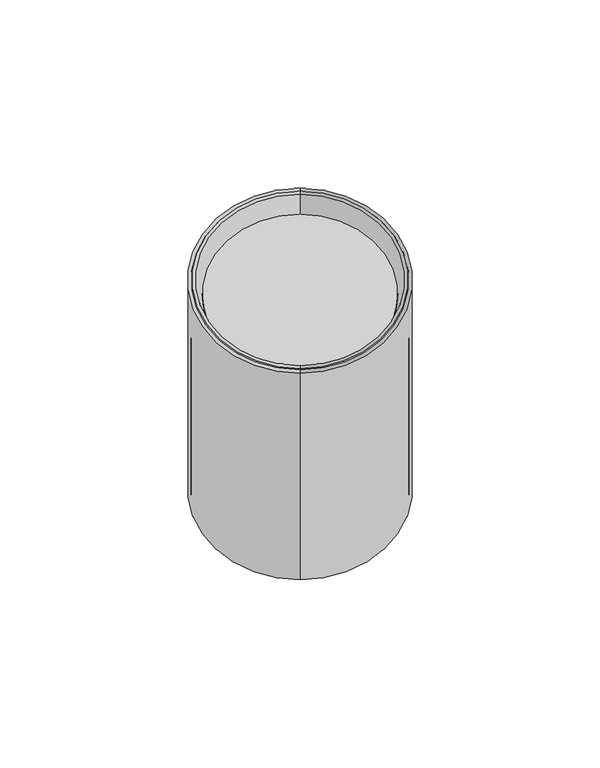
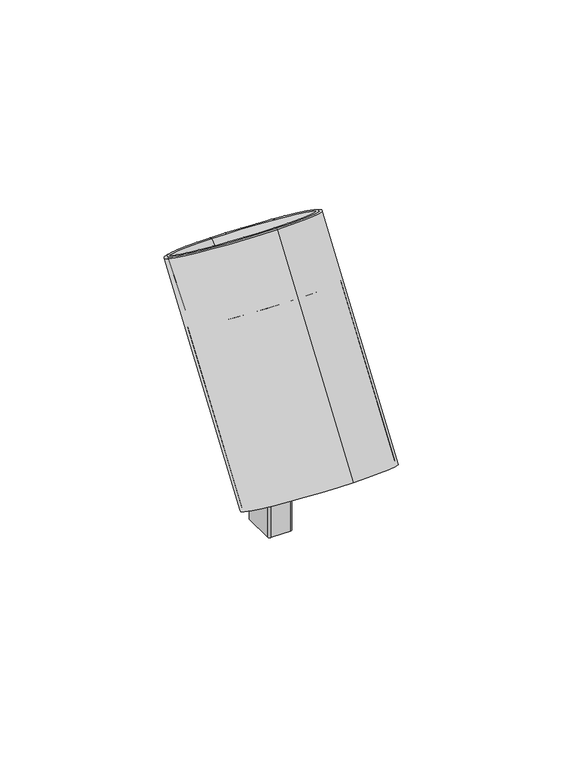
"""IFC4 building model written with IfcOpenShell, lengths in millimetres: light fixture geometry, Nooraneh_Slide 1 : Nooraneh_Slide."""

import ifcopenshell
import ifcopenshell.guid

model = None  # the IFC model being written
_history = None  # IfcOwnerHistory: only IFC2X3 demands one
_inside = {}  # id of a spatial element -> (the spatial element, [elements in it])
_under = {}  # id of a project, library or spatial element -> (it, [spatial elements below it])
_declared = {}  # id of a project -> (the project, [libraries it declares])
_typed = {}  # id of a type object -> (the type object, [elements of that type])
_made_of = {}  # id of a material, layer set ... -> (it, [elements and type objects made of it])


def new_model(schema):
    """Start an empty IFC model of exactly this schema.

    Asked for "IFC4X3", IfcOpenShell would pick the latest addendum, in which some entities
    have other attributes; the version numbers below select the first issue.
    IFC2X3 requires an IfcOwnerHistory on every rooted entity: one is made here for all.
    """
    global model, _history
    if schema == "IFC4X3":
        model = ifcopenshell.file(schema_version=(4, 3, 0, 0))
    else:
        model = ifcopenshell.file(schema=schema)
    _inside.clear()
    _under.clear()
    _declared.clear()
    _typed.clear()
    _made_of.clear()
    _history = None
    if model.schema == "IFC2X3":
        org = make("IfcOrganization", Name="unknown")
        user = make(
            "IfcPersonAndOrganization",
            ThePerson=make("IfcPerson", FamilyName="unknown"),
            TheOrganization=org,
        )
        app = make(
            "IfcApplication",
            ApplicationDeveloper=org,
            Version="unknown",
            ApplicationFullName="unknown",
            ApplicationIdentifier="unknown",
        )
        _history = make(
            "IfcOwnerHistory",
            OwningUser=user,
            OwningApplication=app,
            ChangeAction="ADDED",
            CreationDate=0,
        )
    return model


def make(cls, **values):
    """One entity of the class cls with the attributes given. An attribute that is None is left unset."""
    return model.create_entity(
        cls, **{name: value for name, value in values.items() if value is not None}
    )


def rooted(cls, **values):
    """An entity with a GlobalId (a new one), such as an element, a storey or a relation."""
    return make(cls, GlobalId=ifcopenshell.guid.new(), OwnerHistory=_history, **values)


def si_unit(unit_type, name, prefix=None):
    """IfcSIUnit, for example si_unit("LENGTHUNIT", "METRE", prefix="MILLI")."""
    return make("IfcSIUnit", UnitType=unit_type, Prefix=prefix, Name=name)


def assignment(units):
    """IfcUnitAssignment: the units of a project."""
    return None if units is None else make("IfcUnitAssignment", Units=units)


def point(xyz):
    """IfcCartesianPoint."""
    return None if xyz is None else make("IfcCartesianPoint", Coordinates=xyz)


def direction(xyz):
    """IfcDirection."""
    return None if xyz is None else make("IfcDirection", DirectionRatios=xyz)


def frame(location, z_axis=None, x_axis=None):
    """IfcAxis2Placement3D, a coordinate frame: its origin and axes. An axis left out is left unset."""
    return make(
        "IfcAxis2Placement3D",
        Location=point(location),
        Axis=direction(z_axis),
        RefDirection=direction(x_axis),
    )


def frame_2d(location, x_axis=None):
    """IfcAxis2Placement2D, a coordinate frame in the plane: its origin and x axis."""
    return make(
        "IfcAxis2Placement2D", Location=point(location), RefDirection=direction(x_axis)
    )


def origin():
    """The frame at (0, 0, 0) with its axes left unset."""
    return frame((0.0, 0.0, 0.0))


def origin_with_axes():
    """The frame at (0, 0, 0) with the z axis (0, 0, 1) and the x axis (1, 0, 0) written out."""
    return frame((0.0, 0.0, 0.0), z_axis=(0.0, 0.0, 1.0), x_axis=(1.0, 0.0, 0.0))


def place(relative_to, where):
    """IfcLocalPlacement: puts the frame where relative to a parent placement (None: the world)."""
    return make(
        "IfcLocalPlacement", PlacementRelTo=relative_to, RelativePlacement=where
    )


def context(
    kind, dimensions, precision=None, world=None, true_north=None, identifier=None
):
    """IfcGeometricRepresentationContext, for example the 3D "Model" context."""
    return make(
        "IfcGeometricRepresentationContext",
        ContextIdentifier=identifier,
        ContextType=kind,
        CoordinateSpaceDimension=dimensions,
        Precision=precision,
        WorldCoordinateSystem=world,
        TrueNorth=true_north,
    )


def project(units=None, contexts=None):
    """IfcProject with its units and contexts."""
    return rooted(
        "IfcProject",
        Name="project",
        RepresentationContexts=contexts,
        UnitsInContext=assignment(units),
    )


def spatial(cls, under=None, at=None, **own):
    """A site, building, storey or space (cls), placed at a placement, below another one or the project."""
    s = rooted(cls, ObjectPlacement=at, **own)
    if under is not None:
        _under.setdefault(under.id(), (under, []))[1].append(s)
    return s


def polyline(points):
    """IfcPolyline through the points."""
    return make("IfcPolyline", Points=[point(p) for p in points])


def circle_curve(where, radius):
    """IfcCircle in the frame where."""
    return make("IfcCircle", Position=where, Radius=radius)


def ellipse_curve(where, semi_axis1, semi_axis2):
    """IfcEllipse in the frame where."""
    return make(
        "IfcEllipse", Position=where, SemiAxis1=semi_axis1, SemiAxis2=semi_axis2
    )


def trimmed(basis, trim1, trim2, sense, master):
    """IfcTrimmedCurve: the piece of a basis curve between two trims."""
    return make(
        "IfcTrimmedCurve",
        BasisCurve=basis,
        Trim1=trim1,
        Trim2=trim2,
        SenseAgreement=sense,
        MasterRepresentation=master,
    )


def segment(curve, same_sense, transition):
    """IfcCompositeCurveSegment."""
    return make(
        "IfcCompositeCurveSegment",
        Transition=transition,
        SameSense=same_sense,
        ParentCurve=curve,
    )


def composite_curve(segments, self_intersect=None):
    """IfcCompositeCurve: segments joined end to end."""
    return make("IfcCompositeCurve", Segments=segments, SelfIntersect=self_intersect)


def outline(outer, holes=None, kind="AREA"):
    """IfcArbitraryClosedProfileDef: a profile drawn as a closed curve; with holes, ...WithVoids."""
    if holes is None:
        return make("IfcArbitraryClosedProfileDef", ProfileType=kind, OuterCurve=outer)
    return make(
        "IfcArbitraryProfileDefWithVoids",
        ProfileType=kind,
        OuterCurve=outer,
        InnerCurves=holes,
    )


def extrude(swept, where, along, depth):
    """IfcExtrudedAreaSolid: the profile swept, set in the frame where, extruded along a direction by depth."""
    return make(
        "IfcExtrudedAreaSolid",
        SweptArea=swept,
        Position=where,
        ExtrudedDirection=direction(along),
        Depth=depth,
    )


def shape(context_of_items, identifier, shape_type, items):
    """IfcShapeRepresentation: the items that make up one representation, for example the "Body"."""
    return make(
        "IfcShapeRepresentation",
        ContextOfItems=context_of_items,
        RepresentationIdentifier=identifier,
        RepresentationType=shape_type,
        Items=items,
    )


def source(mapping_origin, context_of_items, identifier, shape_type, items):
    """IfcRepresentationMap: a shape defined once, which mapped items show again and again."""
    return make(
        "IfcRepresentationMap",
        MappingOrigin=mapping_origin,
        MappedRepresentation=shape(context_of_items, identifier, shape_type, items),
    )


def transform(
    local_origin,
    x_axis=None,
    y_axis=None,
    z_axis=None,
    scale=None,
    scale2=None,
    scale3=None,
    uniform=True,
):
    """IfcCartesianTransformationOperator3D, or its non-uniform kind. x_axis, y_axis, z_axis: its Axis1, 2, 3."""
    if uniform:
        return make(
            "IfcCartesianTransformationOperator3D",
            Axis1=direction(x_axis),
            Axis2=direction(y_axis),
            LocalOrigin=point(local_origin),
            Scale=scale,
            Axis3=direction(z_axis),
        )
    return make(
        "IfcCartesianTransformationOperator3DnonUniform",
        Axis1=direction(x_axis),
        Axis2=direction(y_axis),
        LocalOrigin=point(local_origin),
        Scale=scale,
        Axis3=direction(z_axis),
        Scale2=scale2,
        Scale3=scale3,
    )


def mapped(mapping_source, mapping_target):
    """IfcMappedItem: shows the shape of a source again, moved by a transform."""
    return make(
        "IfcMappedItem", MappingSource=mapping_source, MappingTarget=mapping_target
    )


def made_of(thing, what):
    """Note that an element or type object is made of a material, layer set ...; save() writes the relation."""
    if what is not None:
        _made_of.setdefault(what.id(), (what, []))[1].append(thing)
    return thing


def element(
    cls,
    number,
    at=None,
    inside=None,
    cuts=None,
    type_object=None,
    material=None,
    context=None,
    identifier="Body",
    shape_type=None,
    held_by="IfcProductDefinitionShape",
    body=None,
    shapes=None,
    **own,
):
    """One element of the class cls, such as IfcWall. Its Tag is "e" and its number.

    at: its placement. inside: the storey or other place that contains it. cuts: it is an
    opening in that element (IfcRelVoidsElement). A single representation is given by context,
    identifier, shape_type and body (its items); several are given by shapes. held_by: the class
    of the entity that holds the representations. save() writes the other relations.
    """
    e = rooted(cls, Tag="e%d" % number, ObjectPlacement=at, **own)
    if body is not None:
        shapes = [shape(context, identifier, shape_type, body)]
    if shapes is not None:
        e.Representation = make(held_by, Representations=shapes)
    if inside is not None:
        _inside.setdefault(inside.id(), (inside, []))[1].append(e)
    if cuts is not None:
        rooted(
            "IfcRelVoidsElement", RelatingBuildingElement=cuts, RelatedOpeningElement=e
        )
    if type_object is not None:
        _typed.setdefault(type_object.id(), (type_object, []))[1].append(e)
    return made_of(e, material)


def aggregate(whole, parts):
    """IfcRelAggregates: a whole, such as a stair, and the parts it consists of."""
    return rooted("IfcRelAggregates", RelatingObject=whole, RelatedObjects=parts)


def save(model, path):
    """Write the relations noted so far, then the file.

    IfcRelAggregates (storeys below a building ...), IfcRelContainedInSpatialStructure (elements
    in a storey), IfcRelDefinesByType, IfcRelAssociatesMaterial and IfcRelDeclares: one each for
    every whole, place, type object, material and project.
    """
    for whole, parts in _under.values():
        aggregate(whole, parts)
    for where, things in _inside.values():
        rooted(
            "IfcRelContainedInSpatialStructure",
            RelatedElements=things,
            RelatingStructure=where,
        )
    for kind, things in _typed.values():
        rooted("IfcRelDefinesByType", RelatedObjects=things, RelatingType=kind)
    for what, things in _made_of.values():
        rooted("IfcRelAssociatesMaterial", RelatedObjects=things, RelatingMaterial=what)
    for by, libraries in _declared.values():
        rooted("IfcRelDeclares", RelatingContext=by, RelatedDefinitions=libraries)
    model.write(path)


def plane_surface(at):
    """IfcPlane: the flat surface through the origin of the frame at, square to its z axis."""
    return make("IfcPlane", Position=at)


def cylinder_surface(at, radius):
    """IfcCylindricalSurface: all points at the distance radius from the z axis of the frame at."""
    return make("IfcCylindricalSurface", Position=at, Radius=radius)


def revolved_surface(curve, axis_point, axis_direction):
    """IfcSurfaceOfRevolution: the curve turned about the line through axis_point along axis_direction."""
    return make(
        "IfcSurfaceOfRevolution",
        SweptCurve=make("IfcArbitraryOpenProfileDef", ProfileType="CURVE", Curve=curve),
        AxisPosition=make("IfcAxis1Placement", Location=point(axis_point), Axis=direction(axis_direction)),
    )


def advanced_brep(points, edges, surfaces, faces):
    """IfcAdvancedBrep: a solid bounded by faces that lie on surfaces and meet in shared edges.

    An edge is (start, end): straight between two places in points (the first is 0);
    or (start, end, curve); or (start, end, curve, False) where it runs against its curve.
    A face is (place in surfaces, loops), or (place, loops, False) where it looks against
    its surface's normal. A loop lists edges by number (the first is 1), with a minus sign
    where the edge is run from its end to its start. The first loop is the outer one.
    """
    corners = [point(p) for p in points]
    vertices = [make("IfcVertexPoint", VertexGeometry=c) for c in corners]
    made = []
    for start, end, *more in edges:
        made.append(
            make(
                "IfcEdgeCurve",
                EdgeStart=vertices[start],
                EdgeEnd=vertices[end],
                EdgeGeometry=more[0] if more else make("IfcPolyline", Points=[corners[start], corners[end]]),
                SameSense=more[1] if len(more) > 1 else True,
            )
        )
    hull = []
    for where, loops, *sense in faces:
        bounds = []
        for j, loop in enumerate(loops):
            ring = [make("IfcOrientedEdge", EdgeElement=made[abs(k) - 1], Orientation=k > 0) for k in loop]
            bounds.append(
                make(
                    "IfcFaceOuterBound" if j == 0 else "IfcFaceBound",
                    Bound=make("IfcEdgeLoop", EdgeList=ring),
                    Orientation=True,
                )
            )
        hull.append(make("IfcAdvancedFace", Bounds=bounds, FaceSurface=surfaces[where], SameSense=sense[0] if sense else True))
    return make("IfcAdvancedBrep", Outer=make("IfcClosedShell", CfsFaces=hull))


def light_fixture_3d6168cd(model_context):
    return source(origin(), model_context, "Body", "SolidModel", [
        extrude(outline(composite_curve([segment(polyline([(0.0, 0.0), (3.23787, 0.0)]), True, "CONTINUOUS"), segment(trimmed(circle_curve(frame_2d((-25.2543966, 6.3898941)), 29.2), [point((3.23787, 0.0))], [point((-54.4543965, 6.3899038))], False, "CARTESIAN"), True, "CONTINUOUS"), segment(trimmed(circle_curve(frame_2d((-25.2543966, 6.3898941)), 29.2), [point((-54.4543965, 6.3899038))], [point((3.2320348, 12.805752))], False, "CARTESIAN"), True, "CONTINUOUS"), segment(polyline([(3.2320348, 12.805752), (0.0, 12.805752), (0.0, 0.0)]), True, "CONTINUOUS")], self_intersect=False), holes=[composite_curve([segment(trimmed(circle_curve(frame_2d((-25.2543966, 6.3898941)), 24.965209), [point((-4.6326443, 20.461319))], [point((-46.6176103, 19.3078954))], True, "CARTESIAN"), True, "CONTINUOUS"), segment(polyline([(-46.6176103, 19.3078954), (-45.8915454, 18.6089852)]), True, "CONTINUOUS"), segment(trimmed(circle_curve(frame_2d((-25.2543966, 6.3898941)), 23.9832879), [point((-45.8915454, 18.6089852))], [point((-5.3397512, 19.7542123))], False, "CARTESIAN"), True, "CONTINUOUS"), segment(polyline([(-5.3397512, 19.7542123), (-4.6326443, 20.461319)]), True, "CONTINUOUS")], self_intersect=False), composite_curve([segment(polyline([(-41.2262244, -0.5101059), (-40.360199, -0.0101059)]), True, "CONTINUOUS"), segment(trimmed(circle_curve(frame_2d((-25.2543966, 6.3898941)), 16.4056474), [point((-40.360199, -0.0101059))], [point((-41.660044, 6.3898941))], False, "CARTESIAN"), True, "CONTINUOUS"), segment(trimmed(circle_curve(frame_2d((-25.2543966, 6.3898941)), 16.4056474), [point((-41.660044, 6.3898941))], [point((-40.360199, 12.7898941))], False, "CARTESIAN"), True, "CONTINUOUS"), segment(polyline([(-40.360199, 12.7898941), (-41.2262244, 13.2898941)]), True, "CONTINUOUS"), segment(trimmed(circle_curve(frame_2d((-25.2543966, 6.3898941)), 17.3985426), [point((-41.2262244, 13.2898941))], [point((-42.6529391, 6.3898941))], True, "CARTESIAN"), True, "CONTINUOUS"), segment(trimmed(circle_curve(frame_2d((-25.2543966, 6.3898941)), 17.3985426), [point((-42.6529391, 6.3898941))], [point((-41.2262244, -0.5101059))], True, "CARTESIAN"), True, "CONTINUOUS")], self_intersect=False), composite_curve([segment(trimmed(circle_curve(frame_2d((-25.2543966, 6.3898941)), 23.3793154), [point((-2.9164828, -0.5101059))], [point((-1.8750811, 6.3898941))], True, "CARTESIAN"), True, "CONTINUOUS"), segment(trimmed(circle_curve(frame_2d((-25.2543966, 6.3898941)), 23.3793154), [point((-1.8750811, 6.3898941))], [point((-2.9164828, 13.2898941))], True, "CARTESIAN"), True, "CONTINUOUS"), segment(polyline([(-2.9164828, 13.2898941), (-3.7825082, 12.7898941)]), True, "CONTINUOUS"), segment(trimmed(circle_curve(frame_2d((-25.2543966, 6.3898941)), 22.4054009), [point((-3.7825082, 12.7898941))], [point((-2.8489957, 6.3898941))], False, "CARTESIAN"), True, "CONTINUOUS"), segment(trimmed(circle_curve(frame_2d((-25.2543966, 6.3898941)), 22.4054009), [point((-2.8489957, 6.3898941))], [point((-3.7825082, -0.0101059))], False, "CARTESIAN"), True, "CONTINUOUS"), segment(polyline([(-3.7825082, -0.0101059), (-2.9164828, -0.5101059)]), True, "CONTINUOUS")], self_intersect=False), composite_curve([segment(trimmed(circle_curve(frame_2d((-25.2543966, 6.3898941)), 21.0157603), [point((-7.9676334, 18.3410447))], [point((-25.2543966, 27.4056544))], True, "CARTESIAN"), True, "CONTINUOUS"), segment(trimmed(circle_curve(frame_2d((-25.2543966, 6.3898941)), 21.0157603), [point((-25.2543966, 27.4056544))], [point((-42.5411597, 18.3410447))], True, "CARTESIAN"), True, "CONTINUOUS"), segment(polyline([(-42.5411597, 18.3410447), (-42.0411597, 17.4750193)]), True, "CONTINUOUS"), segment(trimmed(circle_curve(frame_2d((-25.2543966, 6.3898941)), 20.1165459), [point((-42.0411597, 17.4750193))], [point((-25.2543966, 26.50644))], False, "CARTESIAN"), True, "CONTINUOUS"), segment(trimmed(circle_curve(frame_2d((-25.2543966, 6.3898941)), 20.1165459), [point((-25.2543966, 26.50644))], [point((-8.4676334, 17.4750193))], False, "CARTESIAN"), True, "CONTINUOUS"), segment(polyline([(-8.4676334, 17.4750193), (-7.9676334, 18.3410447)]), True, "CONTINUOUS")], self_intersect=False), composite_curve([segment(polyline([(-7.9676334, -5.5612565), (-8.4676334, -4.6952311)]), True, "CONTINUOUS"), segment(trimmed(circle_curve(frame_2d((-25.2543966, 6.3898941)), 20.1165459), [point((-8.4676334, -4.6952311))], [point((-25.2543966, -13.7266518))], False, "CARTESIAN"), True, "CONTINUOUS"), segment(trimmed(circle_curve(frame_2d((-25.2543966, 6.3898941)), 20.1165459), [point((-25.2543966, -13.7266518))], [point((-42.0411597, -4.6952311))], False, "CARTESIAN"), True, "CONTINUOUS"), segment(polyline([(-42.0411597, -4.6952311), (-42.5411597, -5.5612565)]), True, "CONTINUOUS"), segment(trimmed(circle_curve(frame_2d((-25.2543966, 6.3898941)), 21.0157603), [point((-42.5411597, -5.5612565))], [point((-25.2543966, -14.6258662))], True, "CARTESIAN"), True, "CONTINUOUS"), segment(trimmed(circle_curve(frame_2d((-25.2543966, 6.3898941)), 21.0157603), [point((-25.2543966, -14.6258662))], [point((-7.9676334, -5.5612565))], True, "CARTESIAN"), True, "CONTINUOUS")], self_intersect=False), composite_curve([segment(polyline([(-4.6326443, -7.6815308), (-5.3397512, -6.9744241)]), True, "CONTINUOUS"), segment(trimmed(circle_curve(frame_2d((-25.2543966, 6.3898941)), 23.9832879), [point((-5.3397512, -6.9744241))], [point((-45.8915454, -5.829197))], False, "CARTESIAN"), True, "CONTINUOUS"), segment(polyline([(-45.8915454, -5.829197), (-46.6176103, -6.5281072)]), True, "CONTINUOUS"), segment(trimmed(circle_curve(frame_2d((-25.2543966, 6.3898941)), 24.965209), [point((-46.6176103, -6.5281072))], [point((-4.6326443, -7.6815308))], True, "CARTESIAN"), True, "CONTINUOUS")], self_intersect=False)]), frame((6.3898941, -17.8048466, 24.128517), z_axis=(0.0, 0.5735764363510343, 0.819152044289), x_axis=(0.0, 0.819152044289, -0.5735764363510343)), (0.0, 0.0, 1.0), 68.4116788),
        advanced_brep(
        [(0.0, -63.7998558, 54.7739369), (0.0, -8.8245286, 133.2868408), (0.0, 40.324594, 98.8722546), (0.0, 16.3645117, 64.6537107), (-6.4158579, 15.7959521, 65.0518204), (-6.4158579, -15.2192927, 20.7574604), (6.3898941, -15.2146464, 20.754207), (6.3898941, 15.8005984, 65.048567), (0.0, -63.1445341, 54.3150758), (-6.4158579, -15.890576, 21.2274981), (6.3898941, -15.8857961, 21.2241511), (0.0, 27.706851, 82.2470075), (0.0, -20.1316284, 115.7438713), (-6.4158579, 15.1246688, 65.5218581), (0.0, 15.70919, 65.1125719), (6.3898941, 15.1294487, 65.5185111), (0.0, 26.2323773, 83.279445), (0.0, -18.6571547, 114.7114338), (0.0, 27.9531066, 85.7369012), (0.0, -16.9364254, 117.1688899), (0.0, 5.5083406, 101.4528955), (0.0, 18.2544824, 93.5045706), (0.0, -6.3200789, 110.7118637), (0.0, 5.9672017, 102.1082172), (0.0, 18.8280588, 94.3237227), (0.0, -5.7465025, 111.5310158), (0.0, 19.6472109, 93.7501462), (0.0, -6.5656545, 112.1045922), (0.0, 19.0736345, 92.9309942), (0.0, -7.139231, 111.2854402), (0.0, 20.2192535, 92.1288231), (0.0, -8.28485, 112.0876112), (0.0, 31.3614213, 96.5347391), (0.0, -7.9554891, 124.0647361), (0.0, 32.9997254, 95.3875862), (0.0, -9.5937932, 125.211889), (0.0, 38.7804871, 100.3787849), (0.0, -6.8807375, 132.3511186), (0.0, 27.3465601, 83.4759055), (0.0, -18.8536152, 115.8256165), (0.0, -7.5987264, 132.8538598), (0.0, 39.4984759, 99.8760437), (0.0, 28.0018817, 83.0170444), (0.0, -19.5089368, 116.2844777), (0.0, 39.505442, 99.445831), (0.0, -8.0053766, 132.7132644)],
        [
            (0, 1),
            (1, 2, circle_curve(frame((0.0, 15.7500327, 116.0795477), z_axis=(0.0, -0.5735764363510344, -0.8191520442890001), x_axis=(0.0, -0.8191520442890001, 0.5735764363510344)), 30.0)),
            (2, 3),
            (3, 4, circle_curve(frame((0.0, -8.2100497, 81.8610038), z_axis=(0.0, 0.5735764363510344, 0.8191520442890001), x_axis=(0.0, -0.8191520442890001, 0.5735764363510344)), 30.0)),
            (4, 5),
            (5, 0, circle_curve(frame((0.0, -39.2252944, 37.5666438), z_axis=(0.0, 0.5735764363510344, 0.8191520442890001), x_axis=(0.0, -0.8191520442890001, 0.5735764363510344)), 30.0)),
            (0, 6, circle_curve(frame((0.0, -39.2252944, 37.5666438), z_axis=(0.0, 0.5735764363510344, 0.8191520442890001), x_axis=(0.0, -0.8191520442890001, 0.5735764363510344)), 30.0)),
            (6, 7),
            (7, 3, circle_curve(frame((0.0, -8.2100497, 81.8610038), z_axis=(0.0, 0.5735764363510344, 0.8191520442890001), x_axis=(0.0, -0.8191520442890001, 0.5735764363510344)), 30.0)),
            (2, 1, circle_curve(frame((0.0, 15.7500327, 116.0795477), z_axis=(0.0, -0.5735764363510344, -0.8191520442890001), x_axis=(0.0, -0.8191520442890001, 0.5735764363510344)), 30.0)),
            (8, 0),
            (5, 9),
            (9, 8, circle_curve(frame((0.0, -39.2252944, 37.5666438), z_axis=(0.0, 0.5735764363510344, 0.8191520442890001), x_axis=(0.0, -0.8191520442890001, 0.5735764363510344)), 29.2)),
            (8, 10, circle_curve(frame((0.0, -39.2252944, 37.5666438), z_axis=(0.0, 0.5735764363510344, 0.8191520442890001), x_axis=(0.0, -0.8191520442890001, 0.5735764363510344)), 29.2)),
            (10, 6),
            (11, 12, circle_curve(frame((0.0, 3.7876113, 98.9954394), z_axis=(0.0, 0.5735764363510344, 0.8191520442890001), x_axis=(0.0, -0.8191520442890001, 0.5735764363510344)), 29.2)),
            (12, 8),
            (9, 13),
            (13, 14, circle_curve(frame((0.0, -8.2100497, 81.8610038), z_axis=(0.0, -0.5735764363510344, -0.8191520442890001), x_axis=(0.0, -0.8191520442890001, 0.5735764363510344)), 29.2)),
            (14, 11),
            (12, 11, circle_curve(frame((0.0, 3.7876113, 98.9954394), z_axis=(0.0, 0.5735764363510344, 0.8191520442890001), x_axis=(0.0, -0.8191520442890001, 0.5735764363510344)), 29.2)),
            (14, 15, circle_curve(frame((0.0, -8.2100497, 81.8610038), z_axis=(0.0, -0.5735764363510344, -0.8191520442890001), x_axis=(0.0, -0.8191520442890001, 0.5735764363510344)), 29.2)),
            (15, 10),
            (11, 16),
            (16, 17, circle_curve(frame((0.0, 3.7876113, 98.9954394), z_axis=(0.0, 0.5735764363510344, 0.8191520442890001), x_axis=(0.0, -0.8191520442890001, 0.5735764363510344)), 27.4)),
            (17, 12),
            (17, 16, circle_curve(frame((0.0, 3.7876113, 98.9954394), z_axis=(0.0, 0.5735764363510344, 0.8191520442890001), x_axis=(0.0, -0.8191520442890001, 0.5735764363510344)), 27.4)),
            (16, 18),
            (18, 19, circle_curve(frame((0.0, 5.5083406, 101.4528955), z_axis=(0.0, 0.5735764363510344, 0.8191520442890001), x_axis=(0.0, -0.8191520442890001, 0.5735764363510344)), 27.4)),
            (19, 17),
            (19, 18, circle_curve(frame((0.0, 5.5083406, 101.4528955), z_axis=(0.0, 0.5735764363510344, 0.8191520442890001), x_axis=(0.0, -0.8191520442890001, 0.5735764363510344)), 27.4)),
            (18, 20),
            (20, 19),
            (21, 22, circle_curve(frame((0.0, 5.9672017, 102.1082172), z_axis=(0.0, 0.5735764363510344, 0.8191520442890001), x_axis=(0.0, -0.8191520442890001, 0.5735764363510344)), 15.0)),
            (22, 23),
            (23, 21),
            (22, 21, circle_curve(frame((0.0, 5.9672017, 102.1082172), z_axis=(0.0, 0.5735764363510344, 0.8191520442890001), x_axis=(0.0, -0.8191520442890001, 0.5735764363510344)), 15.0)),
            (21, 24),
            (24, 25, circle_curve(frame((0.0, 6.5407782, 102.9273692), z_axis=(0.0, 0.5735764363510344, 0.8191520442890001), x_axis=(0.0, -0.8191520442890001, 0.5735764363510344)), 15.0)),
            (25, 22),
            (25, 24, circle_curve(frame((0.0, 6.5407782, 102.9273692), z_axis=(0.0, 0.5735764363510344, 0.8191520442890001), x_axis=(0.0, -0.8191520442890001, 0.5735764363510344)), 15.0)),
            (24, 26),
            (26, 27, circle_curve(frame((0.0, 6.5407782, 102.9273692), z_axis=(0.0, 0.5735764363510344, 0.8191520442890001), x_axis=(0.0, -0.8191520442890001, 0.5735764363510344)), 16.0)),
            (27, 25),
            (27, 26, circle_curve(frame((0.0, 6.5407782, 102.9273692), z_axis=(0.0, 0.5735764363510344, 0.8191520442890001), x_axis=(0.0, -0.8191520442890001, 0.5735764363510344)), 16.0)),
            (26, 28),
            (28, 29, circle_curve(frame((0.0, 5.9672017, 102.1082172), z_axis=(0.0, 0.5735764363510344, 0.8191520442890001), x_axis=(0.0, -0.8191520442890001, 0.5735764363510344)), 16.0)),
            (29, 27),
            (29, 28, circle_curve(frame((0.0, 5.9672017, 102.1082172), z_axis=(0.0, 0.5735764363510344, 0.8191520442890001), x_axis=(0.0, -0.8191520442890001, 0.5735764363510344)), 16.0)),
            (28, 30),
            (30, 31, circle_curve(frame((0.0, 5.9672017, 102.1082172), z_axis=(0.0, 0.5735764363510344, 0.8191520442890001), x_axis=(0.0, -0.8191520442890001, 0.5735764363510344)), 17.3985426)),
            (31, 29),
            (31, 30, circle_curve(frame((0.0, 5.9672017, 102.1082172), z_axis=(0.0, 0.5735764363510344, 0.8191520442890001), x_axis=(0.0, -0.8191520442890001, 0.5735764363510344)), 17.3985426)),
            (30, 32),
            (32, 33, circle_curve(frame((0.0, 11.7029661, 110.2997376), z_axis=(0.0, 0.5735764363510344, 0.8191520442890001), x_axis=(0.0, -0.8191520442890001, 0.5735764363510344)), 23.9985426)),
            (33, 31),
            (33, 32, circle_curve(frame((0.0, 11.7029661, 110.2997376), z_axis=(0.0, 0.5735764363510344, 0.8191520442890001), x_axis=(0.0, -0.8191520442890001, 0.5735764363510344)), 23.9985426)),
            (32, 34),
            (34, 35, circle_curve(frame((0.0, 11.7029661, 110.2997376), z_axis=(0.0, 0.5735764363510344, 0.8191520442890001), x_axis=(0.0, -0.8191520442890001, 0.5735764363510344)), 25.9985426)),
            (35, 33),
            (35, 34, circle_curve(frame((0.0, 11.7029661, 110.2997376), z_axis=(0.0, 0.5735764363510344, 0.8191520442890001), x_axis=(0.0, -0.8191520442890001, 0.5735764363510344)), 25.9985426)),
            (34, 36),
            (36, 37, circle_curve(frame((0.0, 15.9498748, 116.3649518), z_axis=(0.0, 0.5735764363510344, 0.8191520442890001), x_axis=(0.0, -0.8191520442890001, 0.5735764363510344)), 27.8710313)),
            (37, 35),
            (37, 36, circle_curve(frame((0.0, 15.9498748, 116.3649518), z_axis=(0.0, 0.5735764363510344, 0.8191520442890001), x_axis=(0.0, -0.8191520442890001, 0.5735764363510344)), 27.8710313)),
            (38, 39, circle_curve(frame((0.0, 4.2464724, 99.650761), z_axis=(0.0, 0.5735764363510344, 0.8191520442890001), x_axis=(0.0, -0.8191520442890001, 0.5735764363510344)), 28.2)),
            (39, 40),
            (40, 41, circle_curve(frame((0.0, 15.9498748, 116.3649518), z_axis=(0.0, -0.5735764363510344, -0.8191520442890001), x_axis=(0.0, -0.8191520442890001, 0.5735764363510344)), 28.7475339)),
            (41, 38),
            (39, 38, circle_curve(frame((0.0, 4.2464724, 99.650761), z_axis=(0.0, 0.5735764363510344, 0.8191520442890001), x_axis=(0.0, -0.8191520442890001, 0.5735764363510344)), 28.2)),
            (41, 40, circle_curve(frame((0.0, 15.9498748, 116.3649518), z_axis=(0.0, -0.5735764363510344, -0.8191520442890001), x_axis=(0.0, -0.8191520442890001, 0.5735764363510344)), 28.7475339)),
            (38, 42),
            (42, 43, circle_curve(frame((0.0, 4.2464724, 99.650761), z_axis=(0.0, 0.5735764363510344, 0.8191520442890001), x_axis=(0.0, -0.8191520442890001, 0.5735764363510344)), 29.0)),
            (43, 39),
            (43, 42, circle_curve(frame((0.0, 4.2464724, 99.650761), z_axis=(0.0, 0.5735764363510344, 0.8191520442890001), x_axis=(0.0, -0.8191520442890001, 0.5735764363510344)), 29.0)),
            (42, 44),
            (44, 45, circle_curve(frame((0.0, 15.7500327, 116.0795477), z_axis=(0.0, 0.5735764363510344, 0.8191520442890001), x_axis=(0.0, -0.8191520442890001, 0.5735764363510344)), 29.0)),
            (45, 43),
            (45, 44, circle_curve(frame((0.0, 15.7500327, 116.0795477), z_axis=(0.0, 0.5735764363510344, 0.8191520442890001), x_axis=(0.0, -0.8191520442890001, 0.5735764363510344)), 29.0)),
            (13, 4),
            (7, 15),
            (1, 45, circle_curve(frame((0.0, -8.4149526, 133.0000526), z_axis=(-1.0, 0.0, 0.0), x_axis=(0.0, 0.5735764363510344, 0.8191520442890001)), 0.5)),
            (44, 2, circle_curve(frame((0.0, 39.915018, 99.1590428), z_axis=(-1.0, 0.0, 0.0), x_axis=(0.0, 0.5735764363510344, 0.8191520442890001)), 0.5)),
            (36, 41, circle_curve(frame((0.0, 39.1394815, 100.1274143), z_axis=(-1.0, 0.0, 0.0), x_axis=(0.0, 0.5735764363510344, 0.8191520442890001)), 0.4382513)),
            (40, 37, circle_curve(frame((0.0, -7.2397319, 132.6024892), z_axis=(-1.0, 0.0, 0.0), x_axis=(0.0, 0.5735764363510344, 0.8191520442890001)), 0.4382513)),
        ],
        [
            cylinder_surface(frame((0.0, 72.1866013, 196.6793207), z_axis=(0.0, -0.5735764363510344, -0.8191520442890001), x_axis=(0.0, -0.8191520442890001, 0.5735764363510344)), 30.0),
            plane_surface(frame((0.0, -39.2252944, 37.5666438), z_axis=(0.0, -0.5735764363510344, -0.8191520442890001), x_axis=(0.0, -0.8191520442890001, 0.5735764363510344))),
            revolved_surface(polyline([(0.0, -63.14453415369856, 54.31507578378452), (0.0, -20.131628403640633, 115.74387139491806)]), (0.0, 72.1866013, 196.6793207), (0.0, -0.5735764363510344, -0.8191520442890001)),
            revolved_surface(polyline([(0.0, -63.144534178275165, 54.31507574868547), (0.0, -20.131628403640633, 115.74387139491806)]), (0.0, 72.1866013, 196.6793207), (0.0, -0.5735764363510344, -0.8191520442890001)),
            plane_surface(frame((0.0, 3.7876113, 98.9954394), z_axis=(0.0, -0.5735764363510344, -0.8191520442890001), x_axis=(0.0, -0.8191520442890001, 0.5735764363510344))),
            revolved_surface(polyline([(0.0, -18.65715477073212, 114.71143374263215), (0.0, -16.936425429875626, 117.1688899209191)]), (0.0, 72.1866013, 196.6793207), (0.0, -0.5735764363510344, -0.8191520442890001)),
            plane_surface(frame((0.0, 5.5083406, 101.4528955), z_axis=(0.0, -0.5735764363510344, -0.8191520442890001), x_axis=(0.0, -0.8191520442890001, 0.5735764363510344))),
            plane_surface(frame((0.0, 5.9672017, 102.1082172), z_axis=(0.0, 0.5735764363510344, 0.8191520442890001), x_axis=(0.0, -0.8191520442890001, 0.5735764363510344))),
            revolved_surface(polyline([(0.0, -6.320078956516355, 110.71186371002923), (0.0, -5.746502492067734, 111.53101579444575)]), (0.0, 72.1866013, 196.6793207), (0.0, -0.5735764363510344, -0.8191520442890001)),
            plane_surface(frame((0.0, 6.5407782, 102.9273692), z_axis=(0.0, 0.5735764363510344, 0.8191520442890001), x_axis=(0.0, -0.8191520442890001, 0.5735764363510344))),
            cylinder_surface(frame((0.0, 72.1866013, 196.6793207), z_axis=(0.0, -0.5735764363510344, -0.8191520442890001), x_axis=(0.0, -0.8191520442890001, 0.5735764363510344)), 16.0),
            revolved_surface(polyline([(0.0, -8.28485, 112.0876112), (0.0, -7.9554891, 124.0647361)]), (0.0, 72.1866013, 196.6793207), (0.0, -0.5735764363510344, -0.8191520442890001)),
            plane_surface(frame((0.0, 11.7029661, 110.2997376), z_axis=(0.0, 0.5735764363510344, 0.8191520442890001), x_axis=(0.0, -0.8191520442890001, 0.5735764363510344))),
            revolved_surface(polyline([(0.0, -9.5937932, 125.211889), (0.0, -6.8807375, 132.3511186)]), (0.0, 72.1866013, 196.6793207), (0.0, -0.5735764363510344, -0.8191520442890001)),
            revolved_surface(polyline([(0.0, -7.5987264, 132.8538598), (0.0, -18.8536152, 115.8256165)]), (0.0, 72.1866013, 196.6793207), (0.0, -0.5735764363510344, -0.8191520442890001)),
            plane_surface(frame((0.0, 4.2464724, 99.650761), z_axis=(0.0, 0.5735764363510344, 0.8191520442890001), x_axis=(0.0, -0.8191520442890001, 0.5735764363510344))),
            revolved_surface(polyline([(0.0, -19.508936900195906, 116.28447766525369), (0.0, -8.00537658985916, 132.7132643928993)]), (0.0, 72.1866013, 196.6793207), (0.0, -0.5735764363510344, -0.8191520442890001)),
            plane_surface(frame((6.3898941, 12.900535, 67.0792133), z_axis=(0.0, -0.5735764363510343, -0.819152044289), x_axis=(0.0, 0.819152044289, -0.5735764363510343))),
            plane_surface(frame((6.3898941, 12.900535, 67.0792133), z_axis=(-1.0000000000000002, 0.0, 0.0), x_axis=(0.0, -0.5735764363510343, -0.8191520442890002))),
            plane_surface(frame((-6.4158579, 18.723681, 63.0018026), z_axis=(1.0000000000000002, 0.0, 0.0), x_axis=(0.0, -0.5735764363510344, -0.8191520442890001))),
            revolved_surface(trimmed(ellipse_curve(frame((0.0, -8.4149526, 133.0000526), z_axis=(1.0, 0.0, 0.0), x_axis=(0.0, 0.5735764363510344, 0.8191520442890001)), 0.5, 0.5), [point((0.0, -8.0053766, 132.7132644))], [point((0.0, -8.8245286, 133.2868408))], True, "CARTESIAN"), (0.0, 72.1866013, 196.6793207), (0.0, -0.5735764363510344, -0.8191520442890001)),
            revolved_surface(trimmed(ellipse_curve(frame((0.0, -7.2397319, 132.6024892), z_axis=(1.0, 0.0, 0.0), x_axis=(0.0, 0.5735764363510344, 0.8191520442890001)), 0.4382513, 0.4382513), [point((0.0, -6.8807375, 132.3511186))], [point((0.0, -7.5987264, 132.8538598))], True, "CARTESIAN"), (0.0, 72.1866013, 196.6793207), (0.0, -0.5735764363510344, -0.8191520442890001)),
        ],
        [
            (0, [[1, 2, 3, 4, 5, 6]]),
            (0, [[-1, 7, 8, 9, -3, 10]]),
            (1, [[11, -6, 12, 13]]),
            (1, [[-11, 14, 15, -7]]),
            (2, [[16, 17, -13, 18, 19, 20]]),
            (3, [[-17, 21, -20, 22, 23, -14]]),
            (4, [[-16, 24, 25, 26]]),
            (4, [[-21, -26, 27, -24]]),
            (5, [[-25, 28, 29, 30]]),
            (5, [[-27, -30, 31, -28]]),
            (6, [[-29, 32, 33]]),
            (6, [[-31, -33, -32]]),
            (7, [[34, 35, 36]]),
            (7, [[-35, 37, -36]]),
            (8, [[-34, 38, 39, 40]]),
            (8, [[-37, -40, 41, -38]]),
            (9, [[-39, 42, 43, 44]]),
            (9, [[-41, -44, 45, -42]]),
            (10, [[-43, 46, 47, 48]]),
            (10, [[-45, -48, 49, -46]]),
            (7, [[-47, 50, 51, 52]]),
            (7, [[-49, -52, 53, -50]]),
            (11, [[-51, 54, 55, 56]]),
            (11, [[-53, -56, 57, -54]]),
            (12, [[-55, 58, 59, 60]]),
            (12, [[-57, -60, 61, -58]]),
            (13, [[-59, 62, 63, 64]]),
            (13, [[-61, -64, 65, -62]]),
            (14, [[66, 67, 68, 69]]),
            (14, [[-67, 70, -69, 71]]),
            (15, [[-66, 72, 73, 74]]),
            (15, [[-70, -74, 75, -72]]),
            (16, [[-73, 76, 77, 78]]),
            (16, [[-75, -78, 79, -76]]),
            (17, [[80, -4, -9, 81, -22, -19]]),
            (18, [[-81, -8, -15, -23]]),
            (19, [[-80, -18, -12, -5]]),
            (20, [[-2, 82, -77, 83]]),
            (20, [[-10, -83, -79, -82]]),
            (21, [[-63, 84, -68, 85]]),
            (21, [[-65, -85, -71, -84]]),
        ],
    ),
        extrude(outline(composite_curve([segment(trimmed(circle_curve(frame_2d((0.0, -25.9985426)), 25.9985426), [point((25.9985426, -25.9985426))], [point((-25.9985426, -25.9985426))], False, "CARTESIAN"), True, "CONTINUOUS"), segment(trimmed(circle_curve(frame_2d((0.0, -25.9985426)), 25.9985426), [point((-25.9985426, -25.9985426))], [point((25.9985426, -25.9985426))], False, "CARTESIAN"), True, "CONTINUOUS")], self_intersect=False)), frame((-25.9985426, 11.7029661, 110.2997376), z_axis=(0.0, 0.5735764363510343, 0.819152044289), x_axis=(0.0, 0.819152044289, -0.5735764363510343)), (0.0, 0.0, 1.0), 1.0),
        extrude(outline(composite_curve([segment(polyline([(-5.0, 2.75), (-4.0, 3.75), (4.0, 3.75), (5.0, 2.75), (5.0, -10.25)]), True, "CONTINUOUS"), segment(trimmed(circle_curve(frame_2d((4.0, -10.25)), 1.0), [point((5.0, -10.25))], [point((4.0, -11.25))], False, "CARTESIAN"), True, "CONTINUOUS"), segment(polyline([(4.0, -11.25), (-4.0, -11.25)]), True, "CONTINUOUS"), segment(trimmed(circle_curve(frame_2d((-4.0, -10.25)), 1.0), [point((-4.0, -11.25))], [point((-5.0, -10.25))], False, "CARTESIAN"), True, "CONTINUOUS"), segment(polyline([(-5.0, -10.25), (-5.0, 2.75)]), True, "CONTINUOUS")], self_intersect=False)), origin_with_axes(), (0.0, 0.0, 1.0), 70.0),
    ])


if __name__ == "__main__":
    model = new_model("IFC4")
    model_context = context("Model", 3, world=origin())
    ifc_project = project(units=[si_unit("LENGTHUNIT", "METRE", prefix="MILLI")], contexts=[model_context])
    site = spatial("IfcSite", under=ifc_project)
    building = spatial("IfcBuilding", under=site)
    placement = place(None, origin())
    light_fixture_shape = light_fixture_3d6168cd(model_context)
    element("IfcLightFixture", 1, ObjectType="Nooraneh_Slide 1 : Nooraneh_Slide", at=placement, inside=building, context=model_context, shape_type="MappedRepresentation", body=[
        mapped(light_fixture_shape, transform((0.0, 0.0, 0.0), x_axis=(1.0, 0.0, 0.0), y_axis=(0.0, 1.0, 0.0), z_axis=(0.0, 0.0, 1.0))),
    ])
    save(model, "model.ifc")
